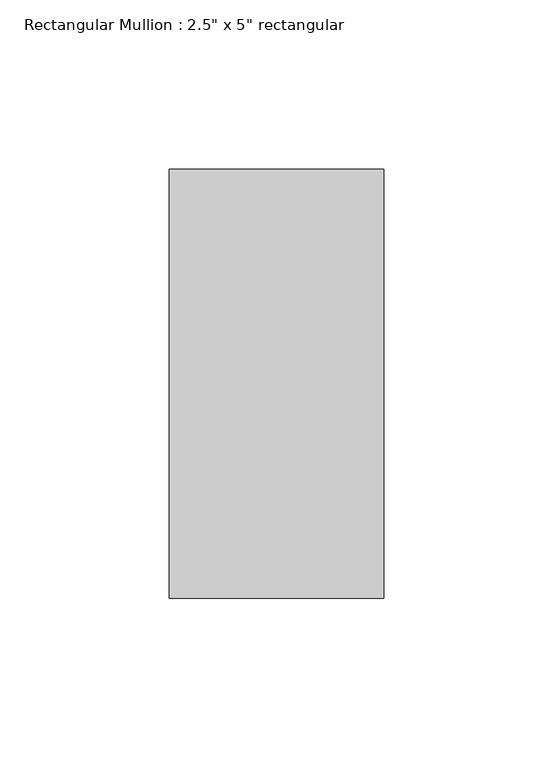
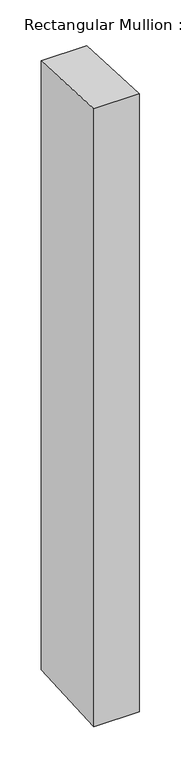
"""IFC4 building model written with IfcOpenShell, lengths in millimetres: member geometry."""

from ifc_helpers import new_model, si_unit, frame, origin, place, context, project, spatial, polyline, outline, extrude, source, transform, mapped, element, save


def member_866ffaa2(model_context):
    return source(origin(), model_context, "Body", "SweptSolid", [
        extrude(outline(polyline([(-63.5, 3.362845), (63.5, -3.362845), (63.5, -901.7257952), (-63.5, -908.4514851), (-63.5, 3.362845)])), frame((-63.5, 0.0, 0.0), z_axis=(1.0, 0.0, 0.0), x_axis=(0.0, 1.0, 0.0)), (0.0, 0.0, 1.0), 63.5),
    ])


if __name__ == "__main__":
    model = new_model("IFC4")
    model_context = context("Model", 3, world=origin())
    ifc_project = project(units=[si_unit("LENGTHUNIT", "METRE", prefix="MILLI")], contexts=[model_context])
    site = spatial("IfcSite", under=ifc_project)
    building = spatial("IfcBuilding", under=site)
    placement = place(None, origin())
    member_shape = member_866ffaa2(model_context)
    element("IfcMember", 1, ObjectType="Rectangular Mullion : 2.5\" x 5\" rectangular", at=placement, inside=building, context=model_context, shape_type="MappedRepresentation", body=[
        mapped(member_shape, transform((0.0, 0.0, 0.0), x_axis=(1.0, 0.0, 0.0), y_axis=(0.0, 1.0, 0.0), z_axis=(0.0, 0.0, 1.0))),
    ])
    save(model, "model.ifc")
